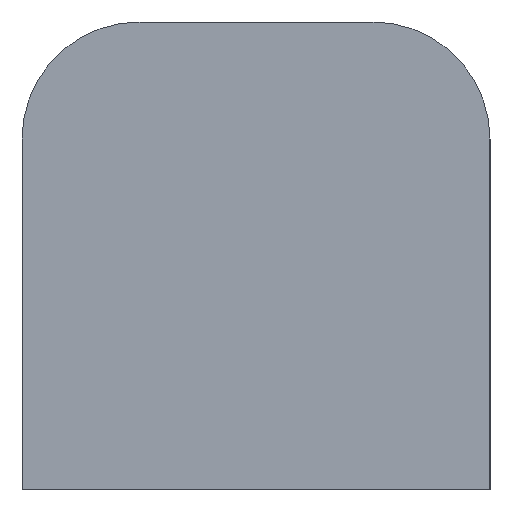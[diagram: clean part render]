
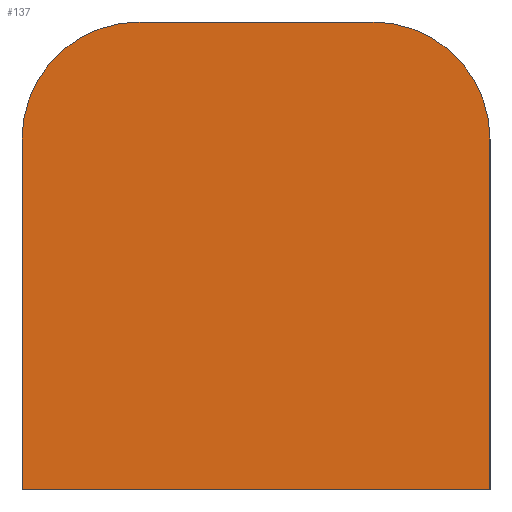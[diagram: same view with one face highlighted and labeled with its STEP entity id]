
A CAD part, left-side view. The second image highlights one B-rep face of the part: STEP entity #137.
In plain terms, the highlighted planar face has unit normal (-1, 0, 0).
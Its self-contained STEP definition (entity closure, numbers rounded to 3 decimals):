
#21 = EDGE_CURVE('',#22,#24,#26,.T.);
#22 = VERTEX_POINT('',#23);
#23 = CARTESIAN_POINT('',(-14.58,8.665,0.));
#24 = VERTEX_POINT('',#25);
#25 = CARTESIAN_POINT('',(-14.58,8.665,3.));
#26 = SURFACE_CURVE('',#27,(#31,#43),.PCURVE_S1.);
#27 = LINE('',#28,#29);
#28 = CARTESIAN_POINT('',(-14.58,8.665,0.));
#29 = VECTOR('',#30,1.);
#30 = DIRECTION('',(0.,0.,1.));
#31 = PCURVE('',#32,#37);
#32 = PLANE('',#33);
#33 = AXIS2_PLACEMENT_3D('',#34,#35,#36);
#34 = CARTESIAN_POINT('',(-14.58,8.665,0.));
#35 = DIRECTION('',(0.,1.,0.));
#36 = DIRECTION('',(1.,0.,0.));
#37 = DEFINITIONAL_REPRESENTATION('',(#38),#42);
#38 = LINE('',#39,#40);
#39 = CARTESIAN_POINT('',(0.,0.));
#40 = VECTOR('',#41,1.);
#41 = DIRECTION('',(0.,-1.));
#42 = ( GEOMETRIC_REPRESENTATION_CONTEXT(2) 
PARAMETRIC_REPRESENTATION_CONTEXT() REPRESENTATION_CONTEXT('2D SPACE',''
  ) );
#43 = PCURVE('',#44,#49);
#44 = PLANE('',#45);
#45 = AXIS2_PLACEMENT_3D('',#46,#47,#48);
#46 = CARTESIAN_POINT('',(-14.58,4.665,0.));
#47 = DIRECTION('',(-1.,0.,0.));
#48 = DIRECTION('',(0.,1.,0.));
#49 = DEFINITIONAL_REPRESENTATION('',(#50),#54);
#50 = LINE('',#51,#52);
#51 = CARTESIAN_POINT('',(4.,0.));
#52 = VECTOR('',#53,1.);
#53 = DIRECTION('',(0.,-1.));
#54 = ( GEOMETRIC_REPRESENTATION_CONTEXT(2) 
PARAMETRIC_REPRESENTATION_CONTEXT() REPRESENTATION_CONTEXT('2D SPACE',''
  ) );
#72 = CYLINDRICAL_SURFACE('',#73,1.);
#73 = AXIS2_PLACEMENT_3D('',#74,#75,#76);
#74 = CARTESIAN_POINT('',(-14.58,7.665,3.));
#75 = DIRECTION('',(1.,0.,0.));
#76 = DIRECTION('',(-0.,1.,0.));
#126 = PLANE('',#127);
#127 = AXIS2_PLACEMENT_3D('',#128,#129,#130);
#128 = CARTESIAN_POINT('',(35.42,6.665,0.));
#129 = DIRECTION('',(0.,0.,1.));
#130 = DIRECTION('',(1.,0.,0.));
#137 = ADVANCED_FACE('',(#138),#44,.T.);
#138 = FACE_BOUND('',#139,.T.);
#139 = EDGE_LOOP('',(#140,#170,#199,#227,#253,#254));
#140 = ORIENTED_EDGE('',*,*,#141,.T.);
#141 = EDGE_CURVE('',#142,#144,#146,.T.);
#142 = VERTEX_POINT('',#143);
#143 = CARTESIAN_POINT('',(-14.58,4.665,0.));
#144 = VERTEX_POINT('',#145);
#145 = CARTESIAN_POINT('',(-14.58,4.665,3.));
#146 = SURFACE_CURVE('',#147,(#151,#158),.PCURVE_S1.);
#147 = LINE('',#148,#149);
#148 = CARTESIAN_POINT('',(-14.58,4.665,0.));
#149 = VECTOR('',#150,1.);
#150 = DIRECTION('',(0.,0.,1.));
#151 = PCURVE('',#44,#152);
#152 = DEFINITIONAL_REPRESENTATION('',(#153),#157);
#153 = LINE('',#154,#155);
#154 = CARTESIAN_POINT('',(0.,0.));
#155 = VECTOR('',#156,1.);
#156 = DIRECTION('',(0.,-1.));
#157 = ( GEOMETRIC_REPRESENTATION_CONTEXT(2) 
PARAMETRIC_REPRESENTATION_CONTEXT() REPRESENTATION_CONTEXT('2D SPACE',''
  ) );
#158 = PCURVE('',#159,#164);
#159 = PLANE('',#160);
#160 = AXIS2_PLACEMENT_3D('',#161,#162,#163);
#161 = CARTESIAN_POINT('',(85.42,4.665,0.));
#162 = DIRECTION('',(0.,-1.,0.));
#163 = DIRECTION('',(-1.,0.,0.));
#164 = DEFINITIONAL_REPRESENTATION('',(#165),#169);
#165 = LINE('',#166,#167);
#166 = CARTESIAN_POINT('',(100.,0.));
#167 = VECTOR('',#168,1.);
#168 = DIRECTION('',(0.,-1.));
#169 = ( GEOMETRIC_REPRESENTATION_CONTEXT(2) 
PARAMETRIC_REPRESENTATION_CONTEXT() REPRESENTATION_CONTEXT('2D SPACE',''
  ) );
#170 = ORIENTED_EDGE('',*,*,#171,.T.);
#171 = EDGE_CURVE('',#144,#172,#174,.T.);
#172 = VERTEX_POINT('',#173);
#173 = CARTESIAN_POINT('',(-14.58,5.665,4.));
#174 = SURFACE_CURVE('',#175,(#180,#187),.PCURVE_S1.);
#175 = CIRCLE('',#176,1.);
#176 = AXIS2_PLACEMENT_3D('',#177,#178,#179);
#177 = CARTESIAN_POINT('',(-14.58,5.665,3.));
#178 = DIRECTION('',(-1.,0.,0.));
#179 = DIRECTION('',(0.,0.,-1.));
#180 = PCURVE('',#44,#181);
#181 = DEFINITIONAL_REPRESENTATION('',(#182),#186);
#182 = CIRCLE('',#183,1.);
#183 = AXIS2_PLACEMENT_2D('',#184,#185);
#184 = CARTESIAN_POINT('',(1.,-3.));
#185 = DIRECTION('',(0.,1.));
#186 = ( GEOMETRIC_REPRESENTATION_CONTEXT(2) 
PARAMETRIC_REPRESENTATION_CONTEXT() REPRESENTATION_CONTEXT('2D SPACE',''
  ) );
#187 = PCURVE('',#188,#193);
#188 = CYLINDRICAL_SURFACE('',#189,1.);
#189 = AXIS2_PLACEMENT_3D('',#190,#191,#192);
#190 = CARTESIAN_POINT('',(85.42,5.665,3.));
#191 = DIRECTION('',(-1.,0.,0.));
#192 = DIRECTION('',(0.,-1.,0.));
#193 = DEFINITIONAL_REPRESENTATION('',(#194),#198);
#194 = LINE('',#195,#196);
#195 = CARTESIAN_POINT('',(-1.571,100.));
#196 = VECTOR('',#197,1.);
#197 = DIRECTION('',(1.,0.));
#198 = ( GEOMETRIC_REPRESENTATION_CONTEXT(2) 
PARAMETRIC_REPRESENTATION_CONTEXT() REPRESENTATION_CONTEXT('2D SPACE',''
  ) );
#199 = ORIENTED_EDGE('',*,*,#200,.T.);
#200 = EDGE_CURVE('',#172,#201,#203,.T.);
#201 = VERTEX_POINT('',#202);
#202 = CARTESIAN_POINT('',(-14.58,7.665,4.));
#203 = SURFACE_CURVE('',#204,(#208,#215),.PCURVE_S1.);
#204 = LINE('',#205,#206);
#205 = CARTESIAN_POINT('',(-14.58,4.665,4.));
#206 = VECTOR('',#207,1.);
#207 = DIRECTION('',(0.,1.,0.));
#208 = PCURVE('',#44,#209);
#209 = DEFINITIONAL_REPRESENTATION('',(#210),#214);
#210 = LINE('',#211,#212);
#211 = CARTESIAN_POINT('',(0.,-4.));
#212 = VECTOR('',#213,1.);
#213 = DIRECTION('',(1.,0.));
#214 = ( GEOMETRIC_REPRESENTATION_CONTEXT(2) 
PARAMETRIC_REPRESENTATION_CONTEXT() REPRESENTATION_CONTEXT('2D SPACE',''
  ) );
#215 = PCURVE('',#216,#221);
#216 = PLANE('',#217);
#217 = AXIS2_PLACEMENT_3D('',#218,#219,#220);
#218 = CARTESIAN_POINT('',(35.42,6.665,4.));
#219 = DIRECTION('',(0.,0.,1.));
#220 = DIRECTION('',(1.,0.,0.));
#221 = DEFINITIONAL_REPRESENTATION('',(#222),#226);
#222 = LINE('',#223,#224);
#223 = CARTESIAN_POINT('',(-50.,-2.));
#224 = VECTOR('',#225,1.);
#225 = DIRECTION('',(0.,1.));
#226 = ( GEOMETRIC_REPRESENTATION_CONTEXT(2) 
PARAMETRIC_REPRESENTATION_CONTEXT() REPRESENTATION_CONTEXT('2D SPACE',''
  ) );
#227 = ORIENTED_EDGE('',*,*,#228,.F.);
#228 = EDGE_CURVE('',#24,#201,#229,.T.);
#229 = SURFACE_CURVE('',#230,(#235,#246),.PCURVE_S1.);
#230 = CIRCLE('',#231,1.);
#231 = AXIS2_PLACEMENT_3D('',#232,#233,#234);
#232 = CARTESIAN_POINT('',(-14.58,7.665,3.));
#233 = DIRECTION('',(1.,0.,0.));
#234 = DIRECTION('',(-0.,0.,1.));
#235 = PCURVE('',#44,#236);
#236 = DEFINITIONAL_REPRESENTATION('',(#237),#245);
#237 = ( BOUNDED_CURVE() B_SPLINE_CURVE(2,(#238,#239,#240,#241,#242,#243
,#244),.UNSPECIFIED.,.T.,.F.) B_SPLINE_CURVE_WITH_KNOTS((1,2,2,2,2,1),(
    -2.094,0.,2.094,4.189,6.283,
8.378),.UNSPECIFIED.) CURVE() GEOMETRIC_REPRESENTATION_ITEM() 
RATIONAL_B_SPLINE_CURVE((1.,0.5,1.,0.5,1.,0.5,1.)) REPRESENTATION_ITEM(
  '') );
#238 = CARTESIAN_POINT('',(3.,-4.));
#239 = CARTESIAN_POINT('',(1.268,-4.));
#240 = CARTESIAN_POINT('',(2.134,-2.5));
#241 = CARTESIAN_POINT('',(3.,-1.));
#242 = CARTESIAN_POINT('',(3.866,-2.5));
#243 = CARTESIAN_POINT('',(4.732,-4.));
#244 = CARTESIAN_POINT('',(3.,-4.));
#245 = ( GEOMETRIC_REPRESENTATION_CONTEXT(2) 
PARAMETRIC_REPRESENTATION_CONTEXT() REPRESENTATION_CONTEXT('2D SPACE',''
  ) );
#246 = PCURVE('',#72,#247);
#247 = DEFINITIONAL_REPRESENTATION('',(#248),#252);
#248 = LINE('',#249,#250);
#249 = CARTESIAN_POINT('',(-4.712,0.));
#250 = VECTOR('',#251,1.);
#251 = DIRECTION('',(1.,0.));
#252 = ( GEOMETRIC_REPRESENTATION_CONTEXT(2) 
PARAMETRIC_REPRESENTATION_CONTEXT() REPRESENTATION_CONTEXT('2D SPACE',''
  ) );
#253 = ORIENTED_EDGE('',*,*,#21,.F.);
#254 = ORIENTED_EDGE('',*,*,#255,.F.);
#255 = EDGE_CURVE('',#142,#22,#256,.T.);
#256 = SURFACE_CURVE('',#257,(#261,#268),.PCURVE_S1.);
#257 = LINE('',#258,#259);
#258 = CARTESIAN_POINT('',(-14.58,4.665,0.));
#259 = VECTOR('',#260,1.);
#260 = DIRECTION('',(0.,1.,0.));
#261 = PCURVE('',#44,#262);
#262 = DEFINITIONAL_REPRESENTATION('',(#263),#267);
#263 = LINE('',#264,#265);
#264 = CARTESIAN_POINT('',(0.,0.));
#265 = VECTOR('',#266,1.);
#266 = DIRECTION('',(1.,0.));
#267 = ( GEOMETRIC_REPRESENTATION_CONTEXT(2) 
PARAMETRIC_REPRESENTATION_CONTEXT() REPRESENTATION_CONTEXT('2D SPACE',''
  ) );
#268 = PCURVE('',#126,#269);
#269 = DEFINITIONAL_REPRESENTATION('',(#270),#274);
#270 = LINE('',#271,#272);
#271 = CARTESIAN_POINT('',(-50.,-2.));
#272 = VECTOR('',#273,1.);
#273 = DIRECTION('',(0.,1.));
#274 = ( GEOMETRIC_REPRESENTATION_CONTEXT(2) 
PARAMETRIC_REPRESENTATION_CONTEXT() REPRESENTATION_CONTEXT('2D SPACE',''
  ) );
